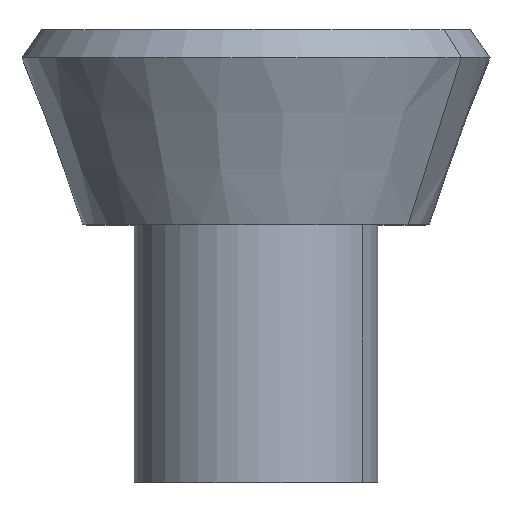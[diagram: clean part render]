
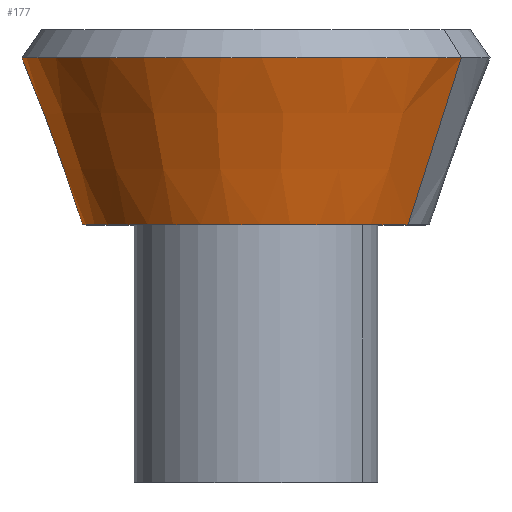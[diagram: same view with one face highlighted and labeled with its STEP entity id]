
A CAD part, top view. The second image highlights one B-rep face of the part: STEP entity #177.
In plain terms, the highlighted conical face has half-angle 20 degrees and reference radius 101 mm.
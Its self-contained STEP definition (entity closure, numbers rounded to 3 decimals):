
#114=CARTESIAN_POINT('Axis2P3D Location',(0.,0.,0.)) ;
#118=CARTESIAN_POINT('Vertex',(88.636,0.,48.422)) ;
#120=CARTESIAN_POINT('Vertex',(-88.636,0.,-48.422)) ;
#147=CARTESIAN_POINT('Axis2P3D Location',(0.,0.,0.)) ;
#152=CARTESIAN_POINT('Line Origine',(104.178,48.66,56.913)) ;
#156=CARTESIAN_POINT('Vertex',(119.721,97.32,65.404)) ;
#159=CARTESIAN_POINT('Axis2P3D Location',(0.,97.32,0.)) ;
#163=CARTESIAN_POINT('Vertex',(-119.721,97.32,-65.404)) ;
#166=CARTESIAN_POINT('Line Origine',(-104.178,48.66,-56.913)) ;
#115=DIRECTION('Axis2P3D Direction',(0.,-1.,0.)) ;
#148=DIRECTION('Axis2P3D Direction',(-0.,1.,-0.)) ;
#149=DIRECTION('Axis2P3D XDirection',(0.878,0.,0.479)) ;
#153=DIRECTION('Vector Direction',(0.3,0.94,0.164)) ;
#160=DIRECTION('Axis2P3D Direction',(0.,1.,-0.)) ;
#167=DIRECTION('Vector Direction',(-0.3,0.94,-0.164)) ;
#116=AXIS2_PLACEMENT_3D('Circle Axis2P3D',#114,#115,$) ;
#150=AXIS2_PLACEMENT_3D('Cone Axis2P3D',#147,#148,#149) ;
#161=AXIS2_PLACEMENT_3D('Circle Axis2P3D',#159,#160,$) ;
#172=ORIENTED_EDGE('',*,*,#122,.F.) ;
#173=ORIENTED_EDGE('',*,*,#158,.T.) ;
#174=ORIENTED_EDGE('',*,*,#165,.T.) ;
#175=ORIENTED_EDGE('',*,*,#170,.F.) ;
#154=VECTOR('Line Direction',#153,1.) ;
#168=VECTOR('Line Direction',#167,1.) ;
#177=ADVANCED_FACE('PartBody',(#176),#151,.T.) ;
#117=CIRCLE('generated circle',#116,101.) ;
#162=CIRCLE('generated circle',#161,136.421) ;
#151=CONICAL_SURFACE('Cone',#150,101.,0.349) ;
#122=EDGE_CURVE('',#119,#121,#117,.T.) ;
#158=EDGE_CURVE('',#119,#157,#155,.T.) ;
#165=EDGE_CURVE('',#157,#164,#162,.F.) ;
#170=EDGE_CURVE('',#121,#164,#169,.T.) ;
#171=EDGE_LOOP('',(#172,#173,#174,#175)) ;
#176=FACE_OUTER_BOUND('',#171,.T.) ;
#155=LINE('Line',#152,#154) ;
#169=LINE('Line',#166,#168) ;
#119=VERTEX_POINT('',#118) ;
#121=VERTEX_POINT('',#120) ;
#157=VERTEX_POINT('',#156) ;
#164=VERTEX_POINT('',#163) ;
